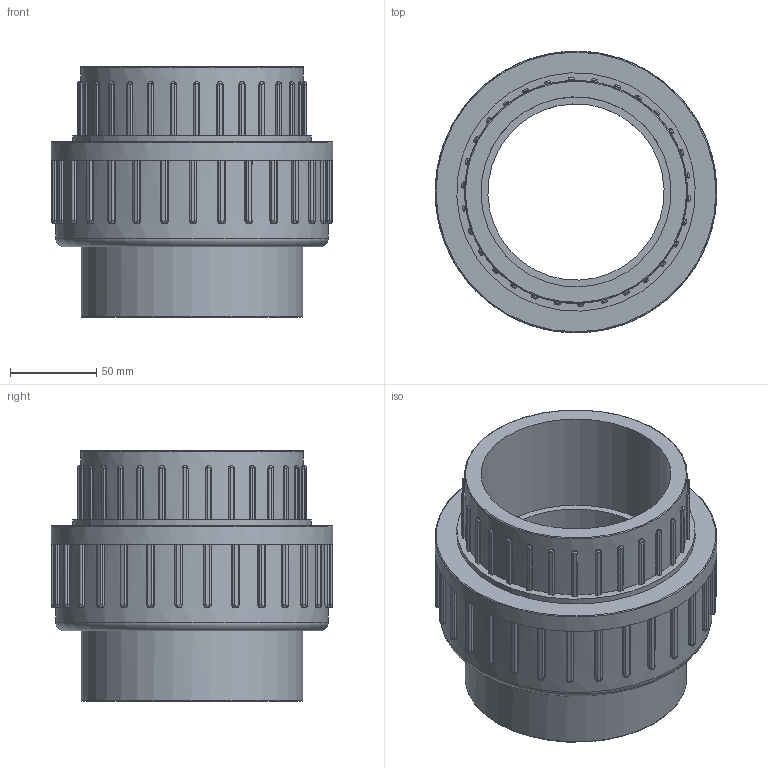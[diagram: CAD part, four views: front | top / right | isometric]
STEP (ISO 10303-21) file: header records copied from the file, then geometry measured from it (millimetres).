
FILE_DESCRIPTION(/* description */ (''),/* implementation_level */ '2;1');
FILE_NAME(/* name */ 'C:\Users\POLYPIPE\Desktop\DATASET INVENTOR\LIBRERIA EFFAST\3D_RACCORDI\RDR\3D_RDRBOD\3D_RDRBOD1100.stp',/* time_stamp */ '2018-01-22T10:25:55+01:00',/* author */ ('POLYPIPE'),/* organization */ (''),/* preprocessor_version */ 'ST-DEVELOPER v16.1',/* originating_system */ 'Autodesk Inventor 2016',/* authorisation */ '');
FILE_SCHEMA (('CONFIG_CONTROL_DESIGN'));
Length unit declared in the file: centimetre
Products named in the file (1): 3D_RDRBOD
Bounding box: 163 x 163 x 145 mm (x, y, z)
Volume: 963723.4 mm3; surface area: 156561.9 mm2
Topology: 1 solids, 2 shells, 446 faces, 1243 edges, 808 vertices
Faces by surface type: plane 191, cylinder 191, bspline 60, torus 4
Full cylindrical faces by diameter (mm): 102 x1, 106 x1, 110 x2, 128.4 x1, 129 x1, 135 x1, 136.5 x1, 138 x1, 157.8 x1, 163 x1
Entity records: 16167 total; most frequent: CARTESIAN_POINT 4395, ORIENTED_EDGE 2448, DIRECTION 2322, EDGE_CURVE 1224, AXIS2_PLACEMENT_3D 831, VERTEX_POINT 804, LINE 660, VECTOR 660
